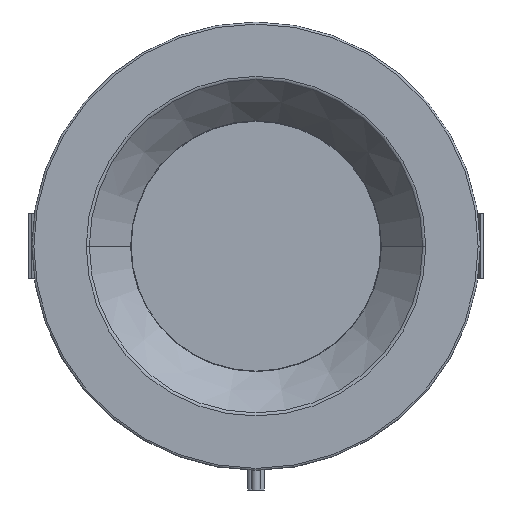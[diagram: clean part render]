
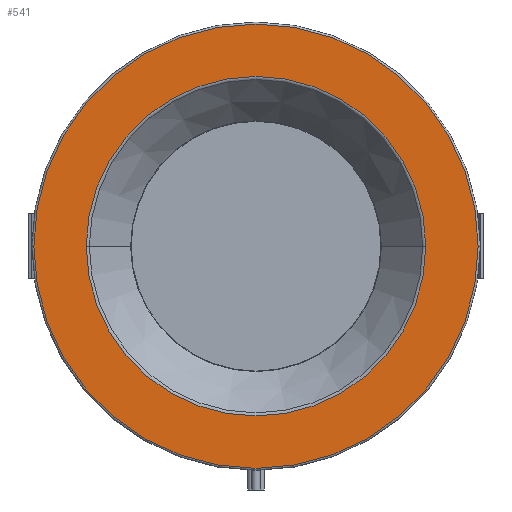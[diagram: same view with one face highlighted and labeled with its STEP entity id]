
A CAD part, front view. The second image highlights one B-rep face of the part: STEP entity #541.
In plain terms, the highlighted planar face has unit normal (0, -1, 0).
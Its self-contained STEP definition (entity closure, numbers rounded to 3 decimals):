
#19=CARTESIAN_POINT('',(0.,0.,0.));
#20=DIRECTION('',(0.,1.,0.));
#21=DIRECTION('',(-1.,0.,0.));
#22=AXIS2_PLACEMENT_3D('',#19,#20,#21);
#28=CARTESIAN_POINT('',(0.,0.,0.));
#29=DIRECTION('',(0.,1.,0.));
#30=DIRECTION('',(1.,0.,0.));
#31=AXIS2_PLACEMENT_3D('',#28,#29,#30);
#36=CARTESIAN_POINT('',(0.,0.,0.));
#37=DIRECTION('',(0.,-1.,0.));
#38=DIRECTION('',(1.,0.,0.));
#39=AXIS2_PLACEMENT_3D('',#36,#37,#38);
#44=CARTESIAN_POINT('',(0.,0.,0.));
#45=DIRECTION('',(0.,-1.,0.));
#46=DIRECTION('',(-1.,0.,0.));
#47=AXIS2_PLACEMENT_3D('',#44,#45,#46);
#480=CARTESIAN_POINT('',(-41.454,0.,0.));
#481=CARTESIAN_POINT('',(41.454,0.,0.));
#482=VERTEX_POINT('',#480);
#483=VERTEX_POINT('',#481);
#488=CARTESIAN_POINT('',(54.25,0.,0.));
#489=CARTESIAN_POINT('',(-54.25,0.,0.));
#490=VERTEX_POINT('',#488);
#491=VERTEX_POINT('',#489);
#524=CARTESIAN_POINT('',(0.,0.,0.));
#525=DIRECTION('',(0.,1.,0.));
#526=DIRECTION('',(1.,0.,0.));
#527=AXIS2_PLACEMENT_3D('',#524,#525,#526);
#528=PLANE('',#527);
#530=ORIENTED_EDGE('',*,*,#529,.F.);
#532=ORIENTED_EDGE('',*,*,#531,.F.);
#533=EDGE_LOOP('',(#530,#532));
#534=FACE_OUTER_BOUND('',#533,.F.);
#536=ORIENTED_EDGE('',*,*,#535,.F.);
#538=ORIENTED_EDGE('',*,*,#537,.F.);
#539=EDGE_LOOP('',(#536,#538));
#540=FACE_BOUND('',#539,.F.);
#541=ADVANCED_FACE('',(#534,#540),#528,.F.);
#23=CIRCLE('',#22,41.454);
#32=CIRCLE('',#31,41.454);
#40=CIRCLE('',#39,54.25);
#48=CIRCLE('',#47,54.25);
#529=EDGE_CURVE('',#490,#491,#40,.T.);
#531=EDGE_CURVE('',#491,#490,#48,.T.);
#535=EDGE_CURVE('',#482,#483,#23,.T.);
#537=EDGE_CURVE('',#483,#482,#32,.T.);
